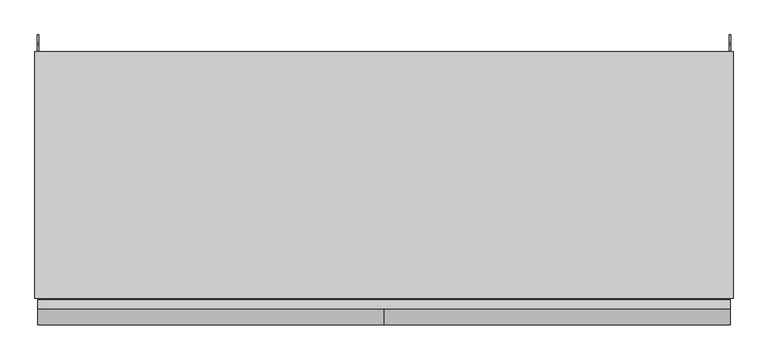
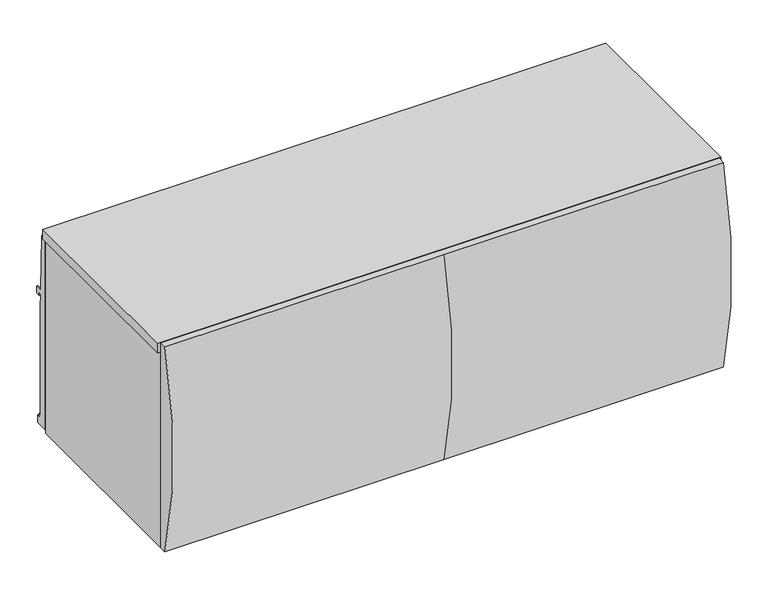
"""IFC4 building model written with IfcOpenShell, lengths in millimetres: furniture geometry, Steelcase - Universal Storage - Over the Case Bin - Radius Front : For Montage - 42W."""

from ifc_helpers import new_model, si_unit, frame, origin, place, context, project, spatial, polyline, circle_curve, outline, extrude, source, transform, mapped, element, save
from ifc_brep_helpers import plane_surface, cylinder_surface, advanced_brep


def furniture_171a907b(model_context):
    return source(origin(), model_context, "Body", "SolidModel", [
        advanced_brep(
        [(1062.3703, -393.0769518, 1677.2612846), (1062.3703, -393.0769518, 1266.8226746), (1062.3703, -379.476, 1266.8226746), (1062.3703, -379.476, 1677.2612846), (533.4, -393.0769518, 1677.2612846), (533.4, -393.0769518, 1266.8226746), (4.4448587, -393.0769518, 1266.8226746), (4.4448587, -379.476, 1266.8226746), (4.4448587, -379.476, 1677.2612846), (4.4448587, -393.0769518, 1677.2612846)],
        [
            (0, 1, circle_curve(frame((1062.3703, 352.6331971, 1472.0419796), z_axis=(1.0, 0.0, 0.0), x_axis=(0.0, 1.0, 0.0)), 773.4329895)),
            (1, 2),
            (2, 3),
            (3, 0),
            (0, 4),
            (4, 5, circle_curve(frame((533.4, 352.6331971, 1472.0419796), z_axis=(1.0, 0.0, 0.0), x_axis=(0.0, 1.0, 0.0)), 773.4329895)),
            (5, 1),
            (5, 6),
            (6, 7),
            (7, 2),
            (7, 8),
            (8, 3),
            (8, 9),
            (9, 4),
            (6, 9, circle_curve(frame((4.4448587, 352.6331971, 1472.0419796), z_axis=(-1.0, 0.0, 0.0), x_axis=(0.0, 1.0, 0.0)), 773.4329895)),
        ],
        [
            plane_surface(frame((1062.3703, 1126.0661866, 1472.0419796), z_axis=(1.0, 0.0, 0.0), x_axis=(0.0, 0.0, 1.0))),
            cylinder_surface(frame((533.4, 352.6331971, 1472.0419796), z_axis=(1.0, 0.0, 0.0), x_axis=(0.0, 1.0, 0.0)), 773.4329895),
            plane_surface(frame((1062.3703, -393.0769518, 1266.8226746), z_axis=(0.0, 0.0, -1.0), x_axis=(-1.0, 0.0, 0.0))),
            plane_surface(frame((1062.3703, -379.476, 1266.8226746), z_axis=(0.0, 1.0, 0.0), x_axis=(-1.0, 0.0, 0.0))),
            plane_surface(frame((1062.3703, -379.476, 1677.2612846), z_axis=(0.0, 0.0, 1.0), x_axis=(-1.0, 0.0, 0.0))),
            plane_surface(frame((4.4448587, 1126.0661866, 1472.0419796), z_axis=(-1.0, 0.0, 0.0), x_axis=(0.0, 0.0, -1.0))),
            cylinder_surface(frame((4.4448587, 352.6331971, 1472.0419796), z_axis=(1.0, 0.0, 0.0), x_axis=(0.0, 1.0, 0.0)), 773.4329895),
        ],
        [
            (0, [[1, 2, 3, 4]]),
            (1, [[-1, 5, 6, 7]]),
            (2, [[-2, -7, 8, 9, 10]]),
            (3, [[-3, -10, 11, 12]]),
            (4, [[-4, -12, 13, 14, -5]]),
            (5, [[-13, -11, -9, 15]]),
            (6, [[-15, -8, -6, -14]]),
        ],
    ),
        extrude(outline(polyline([(0.0, 1657.096), (10.1677703, 1657.096), (13.3857995, 1545.8185744), (26.0095997, 1545.8185744), (26.0095997, 1532.1025512), (17.5768, 1532.1025512), (17.5768, 1537.1064608), (13.3349998, 1537.1064608), (13.3349998, 1522.6538546), (14.2747998, 1522.6538546), (14.2747998, 1296.0858527), (17.2466001, 1296.0858527), (17.2466001, 1289.7358043), (22.5806007, 1289.7358043), (22.5806007, 1274.2164027), (0.0, 1274.2164027), (0.0, 1657.096)])), frame((1061.2882, 0.0, 0.0), z_axis=(1.0, 0.0, 0.0), x_axis=(0.0, 1.0, 0.0)), (0.0, 0.0, 1.0), 1.905),
        extrude(outline(polyline([(1066.8, -377.213238), (0.0, -377.213238), (0.0, 0.0), (1066.8, 0.0), (1066.8, -377.213238)])), frame((0.0, 0.0, 1657.35), z_axis=(0.0, 0.0, 1.0), x_axis=(1.0, 0.0, 0.0)), (0.0, 0.0, 1.0), 19.05),
        extrude(outline(polyline([(15.875, -377.213238), (5.5118, -377.213238), (5.5118, 0.0), (15.875, 0.0), (15.875, -377.213238)])), frame((0.0, 0.0, 1265.428), z_axis=(0.0, 0.0, 1.0), x_axis=(1.0, 0.0, 0.0)), (0.0, 0.0, 1.0), 391.6679457),
        extrude(outline(polyline([(1065.6568665, -377.213238), (1050.925, -377.213238), (1050.925, 0.0), (1065.6568665, 0.0), (1065.6568665, -377.213238)])), frame((0.0, 0.0, 1265.428), z_axis=(0.0, 0.0, 1.0), x_axis=(1.0, 0.0, 0.0)), (0.0, 0.0, 1.0), 391.6679457),
        extrude(outline(polyline([(0.0, 1657.096), (10.1677703, 1657.096), (13.3857995, 1545.8185744), (26.0095997, 1545.8185744), (26.0095997, 1532.1025512), (17.5768, 1532.1025512), (17.5768, 1537.1064608), (13.3349998, 1537.1064608), (13.3349998, 1522.6538546), (14.2747998, 1522.6538546), (14.2747998, 1296.0858527), (17.2466001, 1296.0858527), (17.2466001, 1289.7358043), (22.5806007, 1289.7358043), (22.5806007, 1274.2164027), (0.0, 1274.2164027), (0.0, 1657.096)])), frame((3.6068, 0.0, 0.0), z_axis=(1.0, 0.0, 0.0), x_axis=(0.0, 1.0, 0.0)), (0.0, 0.0, 1.0), 1.905),
        extrude(outline(polyline([(-35.4584098, 1372.819257), (-27.0763996, 1372.819257), (-27.0763996, 1360.1191601), (-33.4264117, 1360.1191601), (-33.4264117, 1323.1622589), (-27.0763996, 1323.1622589), (-27.0763996, 1265.428), (-35.4584098, 1265.428), (-35.4584098, 1293.054213), (-46.1263996, 1293.054213), (-46.1263996, 1268.1875622), (-59.9694137, 1268.1875622), (-59.9694137, 1294.8575912), (-332.8542818, 1294.8575912), (-332.8542818, 1268.1875622), (-377.3042823, 1268.1875622), (-377.3042823, 1310.7072052), (-35.4584098, 1310.7072052), (-35.4584098, 1372.819257)])), frame((15.875, 0.0, 0.0), z_axis=(1.0, 0.0, 0.0), x_axis=(0.0, 1.0, 0.0)), (0.0, 0.0, 1.0), 1035.05),
    ])


if __name__ == "__main__":
    model = new_model("IFC4")
    model_context = context("Model", 3, world=origin())
    ifc_project = project(units=[si_unit("LENGTHUNIT", "METRE", prefix="MILLI")], contexts=[model_context])
    site = spatial("IfcSite", under=ifc_project)
    building = spatial("IfcBuilding", under=site)
    placement = place(None, origin())
    furniture_shape = furniture_171a907b(model_context)
    element("IfcFurniture", 1, ObjectType="Steelcase - Universal Storage - Over the Case Bin - Radius Front : For Montage - 42W", at=placement, inside=building, context=model_context, shape_type="MappedRepresentation", body=[
        mapped(furniture_shape, transform((0.0, 0.0, 0.0), x_axis=(1.0, 0.0, 0.0), y_axis=(0.0, 1.0, 0.0), z_axis=(0.0, 0.0, 1.0))),
    ])
    save(model, "model.ifc")
